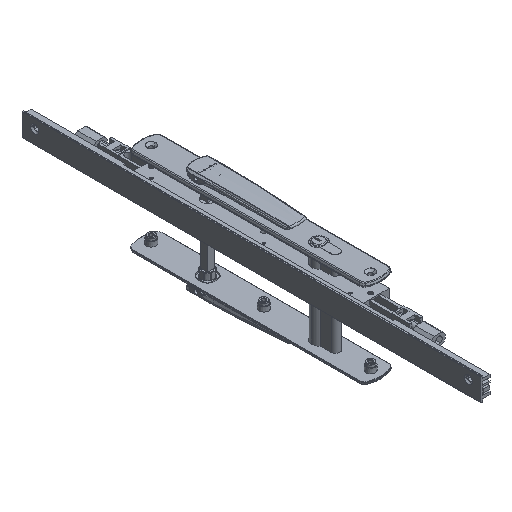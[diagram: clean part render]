
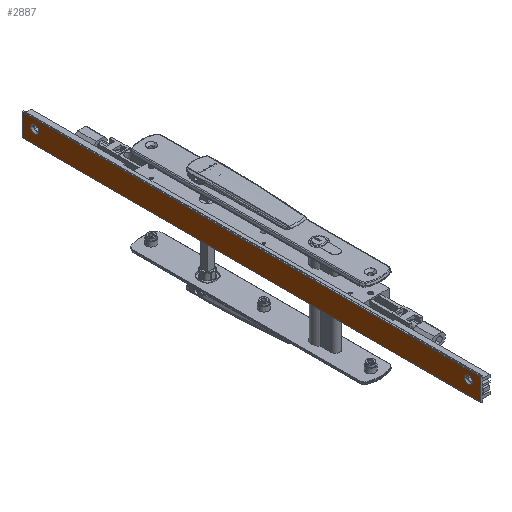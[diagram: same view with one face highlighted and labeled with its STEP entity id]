
A CAD part, isometric view. The second image highlights one B-rep face of the part: STEP entity #2887.
In plain terms, the highlighted planar face has unit normal (-1, 0, 0) as drawn and (0, 1, 0) by its records, which use the part's own axes.
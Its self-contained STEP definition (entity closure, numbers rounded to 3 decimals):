
#2306 = ORIENTED_EDGE ( 'NONE', *, *, #50452, .T. ) ;
#2887 = ADVANCED_FACE ( 'NONE', ( #35897, #3270, #23564 ), #35357, .F. ) ;
#3156 = AXIS2_PLACEMENT_3D ( 'NONE', #6827, #39416, #19124 ) ;
#3270 = FACE_BOUND ( 'NONE', #14832, .T. ) ;
#3755 = CIRCLE ( 'NONE', #28526, 4.89 ) ;
#5990 = EDGE_LOOP ( 'NONE', ( #39006, #15902 ) ) ;
#6827 = CARTESIAN_POINT ( 'NONE',  ( 11.8, 12.4, 15. ) ) ;
#7068 = EDGE_CURVE ( 'NONE', #52930, #40964, #3755, .T. ) ;
#7343 = CIRCLE ( 'NONE', #49205, 4.889 ) ;
#10230 = EDGE_CURVE ( 'NONE', #33021, #44541, #38638, .T. ) ;
#10344 = DIRECTION ( 'NONE',  ( 0., 0., 1. ) ) ;
#10501 = EDGE_LOOP ( 'NONE', ( #12015, #2306, #40248, #28206 ) ) ;
#11436 = DIRECTION ( 'NONE',  ( 0., 0., 1. ) ) ;
#11598 = VECTOR ( 'NONE', #35762, 1000. ) ;
#12015 = ORIENTED_EDGE ( 'NONE', *, *, #15182, .T. ) ;
#14645 = CARTESIAN_POINT ( 'NONE',  ( 20.8, 12.4, 0. ) ) ;
#14832 = EDGE_LOOP ( 'NONE', ( #43997, #31019 ) ) ;
#14855 = VERTEX_POINT ( 'NONE', #41334 ) ;
#15182 = EDGE_CURVE ( 'NONE', #33021, #45887, #51283, .T. ) ;
#15213 = AXIS2_PLACEMENT_3D ( 'NONE', #19298, #23840, #18765 ) ;
#15257 = CARTESIAN_POINT ( 'NONE',  ( 11.8, 12.4, 524.111 ) ) ;
#15258 = EDGE_CURVE ( 'NONE', #14855, #30100, #7343, .T. ) ;
#15433 = EDGE_CURVE ( 'NONE', #30100, #14855, #25372, .T. ) ;
#15902 = ORIENTED_EDGE ( 'NONE', *, *, #49040, .F. ) ;
#16760 = EDGE_CURVE ( 'NONE', #44541, #38041, #19377, .T. ) ;
#18765 = DIRECTION ( 'NONE',  ( 1., 0., 0. ) ) ;
#18838 = DIRECTION ( 'NONE',  ( -1., 0., 0. ) ) ;
#19124 = DIRECTION ( 'NONE',  ( 0., 0., 1. ) ) ;
#19298 = CARTESIAN_POINT ( 'NONE',  ( 20.8, 12.4, 544. ) ) ;
#19377 = LINE ( 'NONE', #39933, #31690 ) ;
#22164 = DIRECTION ( 'NONE',  ( 0., 0., 1. ) ) ;
#22351 = CARTESIAN_POINT ( 'NONE',  ( 22., 12.4, 0. ) ) ;
#23246 = CARTESIAN_POINT ( 'NONE',  ( 22., 12.4, 0. ) ) ;
#23564 = FACE_OUTER_BOUND ( 'NONE', #10501, .T. ) ;
#23683 = LINE ( 'NONE', #40243, #44233 ) ;
#23840 = DIRECTION ( 'NONE',  ( 0., -1., 0. ) ) ;
#24495 = CIRCLE ( 'NONE', #3156, 4.89 ) ;
#24838 = VECTOR ( 'NONE', #10344, 1000. ) ;
#25372 = CIRCLE ( 'NONE', #51010, 4.889 ) ;
#26177 = DIRECTION ( 'NONE',  ( 0., 1., 0. ) ) ;
#28206 = ORIENTED_EDGE ( 'NONE', *, *, #10230, .F. ) ;
#28526 = AXIS2_PLACEMENT_3D ( 'NONE', #41689, #26177, #22164 ) ;
#29238 = CARTESIAN_POINT ( 'NONE',  ( 11.8, 12.4, 19.89 ) ) ;
#29294 = CARTESIAN_POINT ( 'NONE',  ( -4.4, 12.4, 544. ) ) ;
#30100 = VERTEX_POINT ( 'NONE', #15257 ) ;
#31019 = ORIENTED_EDGE ( 'NONE', *, *, #15433, .F. ) ;
#31690 = VECTOR ( 'NONE', #18838, 1000. ) ;
#32561 = CARTESIAN_POINT ( 'NONE',  ( 11.8, 12.4, 10.111 ) ) ;
#33021 = VERTEX_POINT ( 'NONE', #23246 ) ;
#35159 = CARTESIAN_POINT ( 'NONE',  ( 11.8, 12.4, 529. ) ) ;
#35357 = PLANE ( 'NONE',  #15213 ) ;
#35424 = DIRECTION ( 'NONE',  ( 0., 0., 1. ) ) ;
#35762 = DIRECTION ( 'NONE',  ( -1., 0., 0. ) ) ;
#35897 = FACE_BOUND ( 'NONE', #5990, .T. ) ;
#38041 = VERTEX_POINT ( 'NONE', #29294 ) ;
#38638 = LINE ( 'NONE', #22351, #24838 ) ;
#39006 = ORIENTED_EDGE ( 'NONE', *, *, #7068, .F. ) ;
#39416 = DIRECTION ( 'NONE',  ( 0., 1., 0. ) ) ;
#39894 = CARTESIAN_POINT ( 'NONE',  ( 22., 12.4, 544. ) ) ;
#39933 = CARTESIAN_POINT ( 'NONE',  ( 20.8, 12.4, 544. ) ) ;
#39970 = DIRECTION ( 'NONE',  ( 0., 0., 1. ) ) ;
#40243 = CARTESIAN_POINT ( 'NONE',  ( -4.4, 12.4, 0. ) ) ;
#40248 = ORIENTED_EDGE ( 'NONE', *, *, #16760, .F. ) ;
#40964 = VERTEX_POINT ( 'NONE', #32561 ) ;
#41334 = CARTESIAN_POINT ( 'NONE',  ( 11.8, 12.4, 533.889 ) ) ;
#41689 = CARTESIAN_POINT ( 'NONE',  ( 11.8, 12.4, 15. ) ) ;
#43997 = ORIENTED_EDGE ( 'NONE', *, *, #15258, .F. ) ;
#44233 = VECTOR ( 'NONE', #39970, 1000. ) ;
#44541 = VERTEX_POINT ( 'NONE', #39894 ) ;
#45887 = VERTEX_POINT ( 'NONE', #50156 ) ;
#49040 = EDGE_CURVE ( 'NONE', #40964, #52930, #24495, .T. ) ;
#49205 = AXIS2_PLACEMENT_3D ( 'NONE', #51817, #51546, #11436 ) ;
#50156 = CARTESIAN_POINT ( 'NONE',  ( -4.4, 12.4, 0. ) ) ;
#50452 = EDGE_CURVE ( 'NONE', #45887, #38041, #23683, .T. ) ;
#50956 = DIRECTION ( 'NONE',  ( 0., 1., 0. ) ) ;
#51010 = AXIS2_PLACEMENT_3D ( 'NONE', #35159, #50956, #35424 ) ;
#51283 = LINE ( 'NONE', #14645, #11598 ) ;
#51546 = DIRECTION ( 'NONE',  ( 0., 1., 0. ) ) ;
#51817 = CARTESIAN_POINT ( 'NONE',  ( 11.8, 12.4, 529. ) ) ;
#52930 = VERTEX_POINT ( 'NONE', #29238 ) ;
